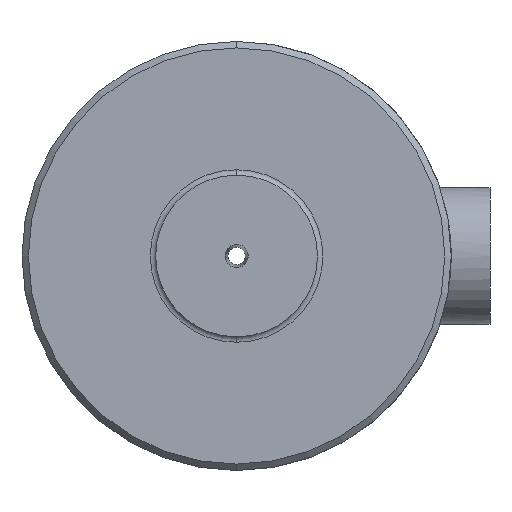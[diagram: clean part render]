
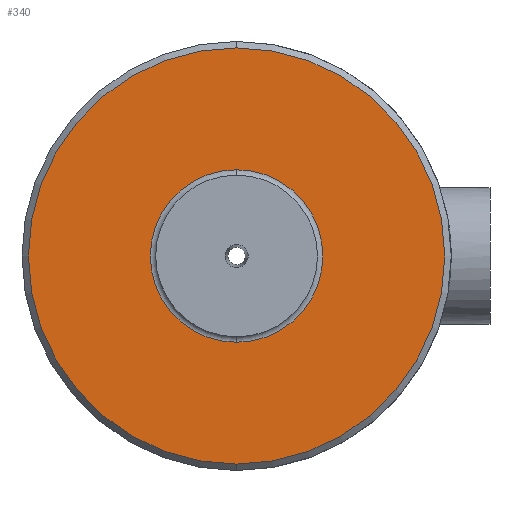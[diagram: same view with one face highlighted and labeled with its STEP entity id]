
A CAD part, front view. The second image highlights one B-rep face of the part: STEP entity #340.
In plain terms, the highlighted planar face has unit normal (0, -1, 0).
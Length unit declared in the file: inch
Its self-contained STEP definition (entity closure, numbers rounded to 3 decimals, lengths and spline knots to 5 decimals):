
#337 = EDGE_CURVE ( 'NONE', #379, #381, #960, .T. ) ;
#340 = ADVANCED_FACE ( 'NONE', ( #978, #957 ), #949, .T. ) ;
#341 = EDGE_LOOP ( 'NONE', ( #342, #343 ) ) ;
#342 = ORIENTED_EDGE ( 'NONE', *, *, #337, .T. ) ;
#343 = ORIENTED_EDGE ( 'NONE', *, *, #393, .T. ) ;
#344 = EDGE_LOOP ( 'NONE', ( #345, #346 ) ) ;
#345 = ORIENTED_EDGE ( 'NONE', *, *, #399, .F. ) ;
#346 = ORIENTED_EDGE ( 'NONE', *, *, #347, .F. ) ;
#347 = EDGE_CURVE ( 'NONE', #369, #370, #961, .T. ) ;
#369 = VERTEX_POINT ( 'NONE', #1010 ) ;
#370 = VERTEX_POINT ( 'NONE', #1003 ) ;
#379 = VERTEX_POINT ( 'NONE', #1077 ) ;
#381 = VERTEX_POINT ( 'NONE', #1078 ) ;
#393 = EDGE_CURVE ( 'NONE', #381, #379, #1066, .T. ) ;
#399 = EDGE_CURVE ( 'NONE', #370, #369, #1091, .T. ) ;
#949 = PLANE ( 'NONE',  #959 ) ;
#955 = DIRECTION ( 'NONE',  ( 0., 0., 1. ) ) ;
#956 = AXIS2_PLACEMENT_3D ( 'NONE', #983, #966, #977 ) ;
#957 = FACE_OUTER_BOUND ( 'NONE', #344, .T. ) ;
#959 = AXIS2_PLACEMENT_3D ( 'NONE', #970, #982, #981 ) ;
#960 = CIRCLE ( 'NONE', #956, 0.4 ) ;
#961 = CIRCLE ( 'NONE', #980, 0.965 ) ;
#966 = DIRECTION ( 'NONE',  ( 0., 1., 0. ) ) ;
#970 = CARTESIAN_POINT ( 'NONE',  ( 0.965, -1., 0. ) ) ;
#975 = CARTESIAN_POINT ( 'NONE',  ( 0., -1., 0. ) ) ;
#977 = DIRECTION ( 'NONE',  ( 0., 0., 1. ) ) ;
#978 = FACE_BOUND ( 'NONE', #341, .T. ) ;
#979 = DIRECTION ( 'NONE',  ( 0., 1., 0. ) ) ;
#980 = AXIS2_PLACEMENT_3D ( 'NONE', #975, #979, #955 ) ;
#981 = DIRECTION ( 'NONE',  ( 0., 0., -1. ) ) ;
#982 = DIRECTION ( 'NONE',  ( 0., -1., 0. ) ) ;
#983 = CARTESIAN_POINT ( 'NONE',  ( 0., -1., 0. ) ) ;
#1003 = CARTESIAN_POINT ( 'NONE',  ( 0., -1., 0.965 ) ) ;
#1010 = CARTESIAN_POINT ( 'NONE',  ( 0., -1., -0.965 ) ) ;
#1053 = DIRECTION ( 'NONE',  ( 0., 0., 1. ) ) ;
#1054 = DIRECTION ( 'NONE',  ( 0., 1., 0. ) ) ;
#1059 = CARTESIAN_POINT ( 'NONE',  ( 0., -1., 0. ) ) ;
#1060 = AXIS2_PLACEMENT_3D ( 'NONE', #1059, #1054, #1053 ) ;
#1066 = CIRCLE ( 'NONE', #1060, 0.4 ) ;
#1077 = CARTESIAN_POINT ( 'NONE',  ( 0., -1., 0.4 ) ) ;
#1078 = CARTESIAN_POINT ( 'NONE',  ( 0., -1., -0.4 ) ) ;
#1087 = DIRECTION ( 'NONE',  ( 0., 0., 1. ) ) ;
#1088 = DIRECTION ( 'NONE',  ( 0., 1., 0. ) ) ;
#1089 = CARTESIAN_POINT ( 'NONE',  ( 0., -1., 0. ) ) ;
#1090 = AXIS2_PLACEMENT_3D ( 'NONE', #1089, #1088, #1087 ) ;
#1091 = CIRCLE ( 'NONE', #1090, 0.965 ) ;
